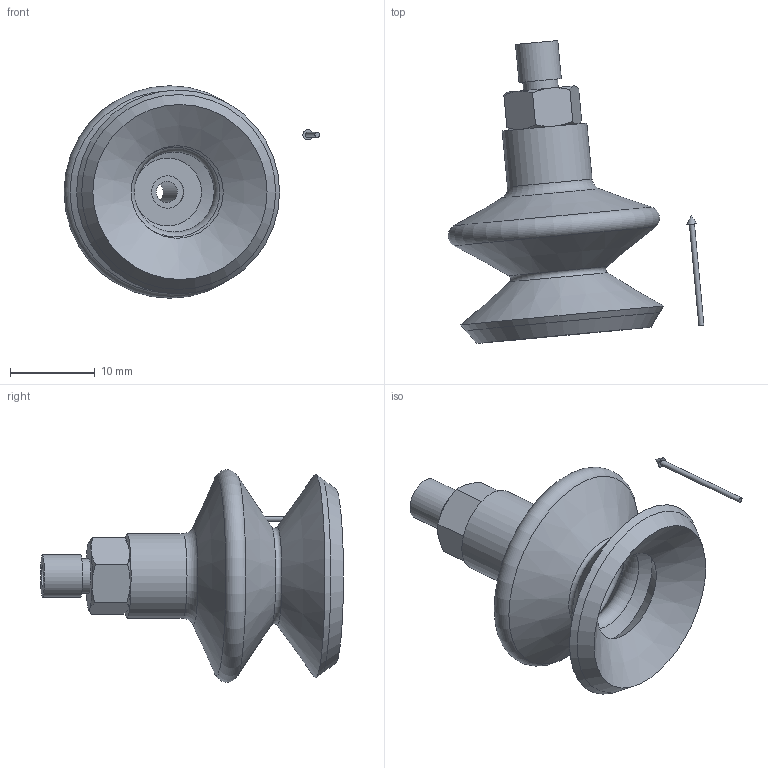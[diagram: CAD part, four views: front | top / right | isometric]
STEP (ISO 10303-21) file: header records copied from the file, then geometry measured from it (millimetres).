
FILE_DESCRIPTION(('STEP AP214'),'1');
FILE_NAME('KIT.08.26.D25.4.stp','2019-04-29T08:18:23',(' '),(' '),'Spatial InterOp 3D',' ',' ');
FILE_SCHEMA(('AUTOMOTIVE_DESIGN { 1 0 10303 214 1 1 1 1 }'));
Length unit declared in the file: millimetre
Products named in the file (6): KIT.08.26.D25.4; CA.08.09.004 ; CA.08.26.D25.AS; FRECCIA.11; 08.26.D25; 08.26.D25.AS
Assembly tree (5 placements, depth 3):
  KIT.08.26.D25.4
    CA.08.09.004 
    CA.08.26.D25.AS
      FRECCIA.11
      08.26.D25
      08.26.D25.AS
Bounding box: 30.12 x 35.66 x 25 mm (x, y, z)
Volume: 3026.7 mm3; surface area: 4765.6 mm2
Topology: 4 solids, 4 shells, 53 faces, 107 edges, 64 vertices
Faces by surface type: cone 25, plane 16, cylinder 7, torus 5
Full cylindrical faces by diameter (mm): 0.6 x1, 2.5 x1, 3.8 x1, 4 x1, 4.1 x1, 5 x1, 10 x1
Entity records: 1789 total; most frequent: CARTESIAN_POINT 273, DIRECTION 216, ORIENTED_EDGE 150, AXIS2_PLACEMENT_3D 105, EDGE_LOOP 86, EDGE_CURVE 75, FACE_OUTER_BOUND 65, VERTEX_POINT 58
